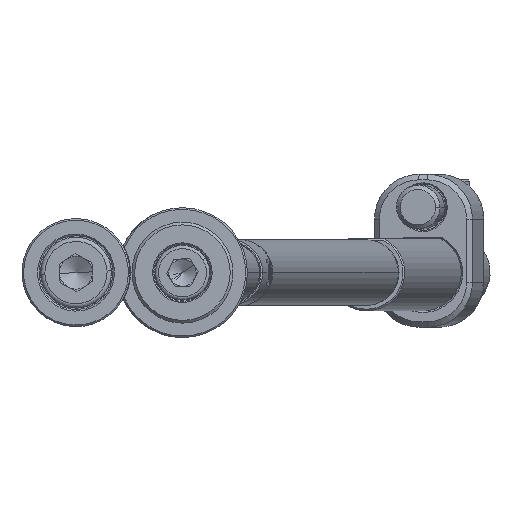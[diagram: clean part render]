
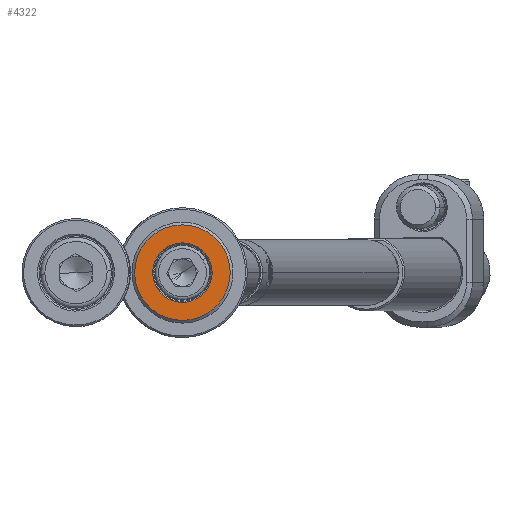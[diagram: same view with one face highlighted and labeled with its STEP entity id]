
A CAD part, front view. The second image highlights one B-rep face of the part: STEP entity #4322.
In plain terms, the highlighted planar face has unit normal (0, -1, 0).
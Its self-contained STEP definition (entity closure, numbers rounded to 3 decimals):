
#57 = ORIENTED_EDGE ( 'NONE', *, *, #9498, .T. ) ;
#157 = FACE_OUTER_BOUND ( 'NONE', #3430, .T. ) ;
#285 = VERTEX_POINT ( 'NONE', #2970 ) ;
#392 = CARTESIAN_POINT ( 'NONE',  ( 0., -4., 0. ) ) ;
#500 = ORIENTED_EDGE ( 'NONE', *, *, #12350, .T. ) ;
#746 = VERTEX_POINT ( 'NONE', #12537 ) ;
#1371 = DIRECTION ( 'NONE',  ( -0.505, 0., 0.863 ) ) ;
#1508 = EDGE_CURVE ( 'NONE', #285, #3083, #13635, .T. ) ;
#2150 = DIRECTION ( 'NONE',  ( -0.505, 0., 0.863 ) ) ;
#2200 = VERTEX_POINT ( 'NONE', #5369 ) ;
#2461 = EDGE_LOOP ( 'NONE', ( #5299, #57 ) ) ;
#2970 = CARTESIAN_POINT ( 'NONE',  ( 2.753, -4., -4.704 ) ) ;
#3083 = VERTEX_POINT ( 'NONE', #12314 ) ;
#3376 = CARTESIAN_POINT ( 'NONE',  ( 0., -4., 0. ) ) ;
#3430 = EDGE_LOOP ( 'NONE', ( #9308, #500 ) ) ;
#3641 = AXIS2_PLACEMENT_3D ( 'NONE', #5593, #8810, #7722 ) ;
#3959 = AXIS2_PLACEMENT_3D ( 'NONE', #5209, #9662, #8562 ) ;
#4322 = ADVANCED_FACE ( 'NONE', ( #12077, #157 ), #4356, .F. ) ;
#4356 = PLANE ( 'NONE',  #3641 ) ;
#5209 = CARTESIAN_POINT ( 'NONE',  ( 0., -4., 0. ) ) ;
#5299 = ORIENTED_EDGE ( 'NONE', *, *, #1508, .T. ) ;
#5369 = CARTESIAN_POINT ( 'NONE',  ( 4.42, -4., -7.552 ) ) ;
#5475 = DIRECTION ( 'NONE',  ( 0., 1., 0. ) ) ;
#5593 = CARTESIAN_POINT ( 'NONE',  ( -4.531, -4., -2.652 ) ) ;
#5972 = AXIS2_PLACEMENT_3D ( 'NONE', #392, #9187, #1371 ) ;
#6205 = DIRECTION ( 'NONE',  ( 0., -1., 0. ) ) ;
#6272 = DIRECTION ( 'NONE',  ( -0.505, 0., 0.863 ) ) ;
#6971 = CIRCLE ( 'NONE', #8357, 5.45 ) ;
#7255 = EDGE_CURVE ( 'NONE', #746, #2200, #7256, .T. ) ;
#7256 = CIRCLE ( 'NONE', #9111, 8.75 ) ;
#7722 = DIRECTION ( 'NONE',  ( -0.505, 0., 0.863 ) ) ;
#8160 = CIRCLE ( 'NONE', #3959, 8.75 ) ;
#8357 = AXIS2_PLACEMENT_3D ( 'NONE', #3376, #5475, #2150 ) ;
#8562 = DIRECTION ( 'NONE',  ( -0.505, 0., 0.863 ) ) ;
#8810 = DIRECTION ( 'NONE',  ( 0., 1., 0. ) ) ;
#9111 = AXIS2_PLACEMENT_3D ( 'NONE', #11727, #6205, #6272 ) ;
#9187 = DIRECTION ( 'NONE',  ( 0., 1., 0. ) ) ;
#9308 = ORIENTED_EDGE ( 'NONE', *, *, #7255, .T. ) ;
#9498 = EDGE_CURVE ( 'NONE', #3083, #285, #6971, .T. ) ;
#9662 = DIRECTION ( 'NONE',  ( 0., -1., 0. ) ) ;
#11727 = CARTESIAN_POINT ( 'NONE',  ( 0., -4., 0. ) ) ;
#12077 = FACE_BOUND ( 'NONE', #2461, .T. ) ;
#12314 = CARTESIAN_POINT ( 'NONE',  ( -2.753, -4., 4.704 ) ) ;
#12350 = EDGE_CURVE ( 'NONE', #2200, #746, #8160, .T. ) ;
#12537 = CARTESIAN_POINT ( 'NONE',  ( -4.42, -4., 7.552 ) ) ;
#13635 = CIRCLE ( 'NONE', #5972, 5.45 ) ;
